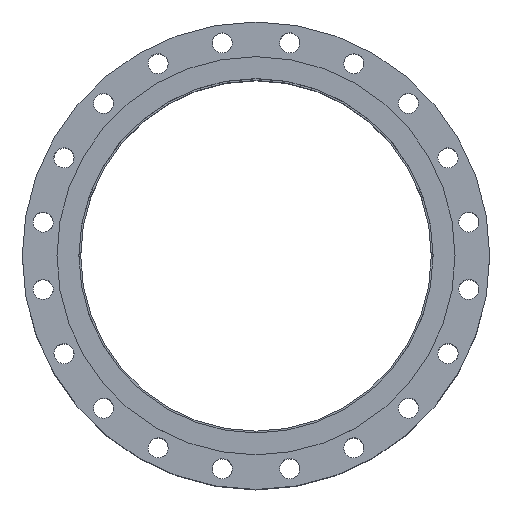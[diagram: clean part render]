
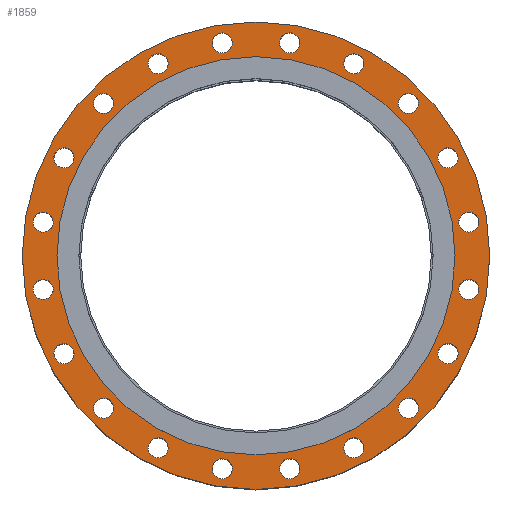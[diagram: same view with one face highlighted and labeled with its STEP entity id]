
A CAD part, top view. The second image highlights one B-rep face of the part: STEP entity #1859.
In plain terms, the highlighted planar face has unit normal (0, 0, 1).
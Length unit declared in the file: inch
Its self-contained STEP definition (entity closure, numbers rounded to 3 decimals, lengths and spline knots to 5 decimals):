
#96=FACE_BOUND('',#471,.T.);
#97=FACE_BOUND('',#472,.T.);
#98=FACE_BOUND('',#473,.T.);
#99=FACE_BOUND('',#474,.T.);
#100=FACE_BOUND('',#475,.T.);
#101=FACE_BOUND('',#476,.T.);
#102=FACE_BOUND('',#477,.T.);
#103=FACE_BOUND('',#478,.T.);
#104=FACE_BOUND('',#479,.T.);
#105=FACE_BOUND('',#480,.T.);
#106=FACE_BOUND('',#481,.T.);
#107=FACE_BOUND('',#482,.T.);
#108=FACE_BOUND('',#483,.T.);
#109=FACE_BOUND('',#484,.T.);
#110=FACE_BOUND('',#485,.T.);
#111=FACE_BOUND('',#486,.T.);
#112=FACE_BOUND('',#487,.T.);
#113=FACE_BOUND('',#488,.T.);
#114=FACE_BOUND('',#489,.T.);
#115=FACE_BOUND('',#490,.T.);
#116=FACE_BOUND('',#491,.T.);
#174=PLANE('',#2100);
#309=FACE_OUTER_BOUND('',#470,.T.);
#470=EDGE_LOOP('',(#1453));
#471=EDGE_LOOP('',(#1454));
#472=EDGE_LOOP('',(#1455));
#473=EDGE_LOOP('',(#1456));
#474=EDGE_LOOP('',(#1457));
#475=EDGE_LOOP('',(#1458));
#476=EDGE_LOOP('',(#1459));
#477=EDGE_LOOP('',(#1460));
#478=EDGE_LOOP('',(#1461));
#479=EDGE_LOOP('',(#1462));
#480=EDGE_LOOP('',(#1463));
#481=EDGE_LOOP('',(#1464));
#482=EDGE_LOOP('',(#1465));
#483=EDGE_LOOP('',(#1466));
#484=EDGE_LOOP('',(#1467));
#485=EDGE_LOOP('',(#1468));
#486=EDGE_LOOP('',(#1469));
#487=EDGE_LOOP('',(#1470));
#488=EDGE_LOOP('',(#1471));
#489=EDGE_LOOP('',(#1472));
#490=EDGE_LOOP('',(#1473));
#491=EDGE_LOOP('',(#1474));
#711=CIRCLE('',#2019,0.6875);
#713=CIRCLE('',#2022,0.6875);
#715=CIRCLE('',#2025,0.6875);
#717=CIRCLE('',#2028,0.6875);
#719=CIRCLE('',#2031,0.6875);
#721=CIRCLE('',#2034,0.6875);
#723=CIRCLE('',#2037,0.6875);
#725=CIRCLE('',#2040,0.6875);
#727=CIRCLE('',#2043,0.6875);
#729=CIRCLE('',#2046,0.6875);
#731=CIRCLE('',#2049,0.6875);
#733=CIRCLE('',#2052,0.6875);
#735=CIRCLE('',#2055,0.6875);
#737=CIRCLE('',#2058,0.6875);
#739=CIRCLE('',#2061,0.6875);
#741=CIRCLE('',#2064,0.6875);
#743=CIRCLE('',#2067,0.6875);
#745=CIRCLE('',#2070,0.6875);
#747=CIRCLE('',#2073,0.6875);
#749=CIRCLE('',#2076,0.6875);
#762=CIRCLE('',#2095,13.625);
#764=CIRCLE('',#2099,16.);
#923=VERTEX_POINT('',#3154);
#925=VERTEX_POINT('',#3160);
#927=VERTEX_POINT('',#3166);
#929=VERTEX_POINT('',#3172);
#931=VERTEX_POINT('',#3178);
#933=VERTEX_POINT('',#3184);
#935=VERTEX_POINT('',#3190);
#937=VERTEX_POINT('',#3196);
#939=VERTEX_POINT('',#3202);
#941=VERTEX_POINT('',#3208);
#943=VERTEX_POINT('',#3214);
#945=VERTEX_POINT('',#3220);
#947=VERTEX_POINT('',#3226);
#949=VERTEX_POINT('',#3232);
#951=VERTEX_POINT('',#3238);
#953=VERTEX_POINT('',#3244);
#955=VERTEX_POINT('',#3250);
#957=VERTEX_POINT('',#3256);
#959=VERTEX_POINT('',#3262);
#961=VERTEX_POINT('',#3268);
#972=VERTEX_POINT('',#3300);
#974=VERTEX_POINT('',#3307);
#1083=EDGE_CURVE('',#923,#923,#711,.T.);
#1086=EDGE_CURVE('',#925,#925,#713,.T.);
#1089=EDGE_CURVE('',#927,#927,#715,.T.);
#1092=EDGE_CURVE('',#929,#929,#717,.T.);
#1095=EDGE_CURVE('',#931,#931,#719,.T.);
#1098=EDGE_CURVE('',#933,#933,#721,.T.);
#1101=EDGE_CURVE('',#935,#935,#723,.T.);
#1104=EDGE_CURVE('',#937,#937,#725,.T.);
#1107=EDGE_CURVE('',#939,#939,#727,.T.);
#1110=EDGE_CURVE('',#941,#941,#729,.T.);
#1113=EDGE_CURVE('',#943,#943,#731,.T.);
#1116=EDGE_CURVE('',#945,#945,#733,.T.);
#1119=EDGE_CURVE('',#947,#947,#735,.T.);
#1122=EDGE_CURVE('',#949,#949,#737,.T.);
#1125=EDGE_CURVE('',#951,#951,#739,.T.);
#1128=EDGE_CURVE('',#953,#953,#741,.T.);
#1131=EDGE_CURVE('',#955,#955,#743,.T.);
#1134=EDGE_CURVE('',#957,#957,#745,.T.);
#1137=EDGE_CURVE('',#959,#959,#747,.T.);
#1140=EDGE_CURVE('',#961,#961,#749,.T.);
#1156=EDGE_CURVE('',#972,#972,#762,.T.);
#1158=EDGE_CURVE('',#974,#974,#764,.T.);
#1453=ORIENTED_EDGE('',*,*,#1158,.T.);
#1454=ORIENTED_EDGE('',*,*,#1083,.T.);
#1455=ORIENTED_EDGE('',*,*,#1086,.T.);
#1456=ORIENTED_EDGE('',*,*,#1089,.T.);
#1457=ORIENTED_EDGE('',*,*,#1092,.T.);
#1458=ORIENTED_EDGE('',*,*,#1095,.T.);
#1459=ORIENTED_EDGE('',*,*,#1098,.T.);
#1460=ORIENTED_EDGE('',*,*,#1101,.T.);
#1461=ORIENTED_EDGE('',*,*,#1104,.T.);
#1462=ORIENTED_EDGE('',*,*,#1107,.T.);
#1463=ORIENTED_EDGE('',*,*,#1110,.T.);
#1464=ORIENTED_EDGE('',*,*,#1113,.T.);
#1465=ORIENTED_EDGE('',*,*,#1116,.T.);
#1466=ORIENTED_EDGE('',*,*,#1119,.T.);
#1467=ORIENTED_EDGE('',*,*,#1122,.T.);
#1468=ORIENTED_EDGE('',*,*,#1125,.T.);
#1469=ORIENTED_EDGE('',*,*,#1128,.T.);
#1470=ORIENTED_EDGE('',*,*,#1131,.T.);
#1471=ORIENTED_EDGE('',*,*,#1134,.T.);
#1472=ORIENTED_EDGE('',*,*,#1137,.T.);
#1473=ORIENTED_EDGE('',*,*,#1140,.T.);
#1474=ORIENTED_EDGE('',*,*,#1156,.T.);
#1859=ADVANCED_FACE('',(#309,#96,#97,#98,#99,#100,#101,#102,#103,#104,#105,
#106,#107,#108,#109,#110,#111,#112,#113,#114,#115,#116),#174,.T.);
#2019=AXIS2_PLACEMENT_3D('',#3155,#2391,#2392);
#2022=AXIS2_PLACEMENT_3D('',#3161,#2398,#2399);
#2025=AXIS2_PLACEMENT_3D('',#3167,#2405,#2406);
#2028=AXIS2_PLACEMENT_3D('',#3173,#2412,#2413);
#2031=AXIS2_PLACEMENT_3D('',#3179,#2419,#2420);
#2034=AXIS2_PLACEMENT_3D('',#3185,#2426,#2427);
#2037=AXIS2_PLACEMENT_3D('',#3191,#2433,#2434);
#2040=AXIS2_PLACEMENT_3D('',#3197,#2440,#2441);
#2043=AXIS2_PLACEMENT_3D('',#3203,#2447,#2448);
#2046=AXIS2_PLACEMENT_3D('',#3209,#2454,#2455);
#2049=AXIS2_PLACEMENT_3D('',#3215,#2461,#2462);
#2052=AXIS2_PLACEMENT_3D('',#3221,#2468,#2469);
#2055=AXIS2_PLACEMENT_3D('',#3227,#2475,#2476);
#2058=AXIS2_PLACEMENT_3D('',#3233,#2482,#2483);
#2061=AXIS2_PLACEMENT_3D('',#3239,#2489,#2490);
#2064=AXIS2_PLACEMENT_3D('',#3245,#2496,#2497);
#2067=AXIS2_PLACEMENT_3D('',#3251,#2503,#2504);
#2070=AXIS2_PLACEMENT_3D('',#3257,#2510,#2511);
#2073=AXIS2_PLACEMENT_3D('',#3263,#2517,#2518);
#2076=AXIS2_PLACEMENT_3D('',#3269,#2524,#2525);
#2095=AXIS2_PLACEMENT_3D('',#3302,#2565,#2566);
#2099=AXIS2_PLACEMENT_3D('',#3308,#2573,#2574);
#2100=AXIS2_PLACEMENT_3D('',#3310,#2576,#2577);
#2391=DIRECTION('center_axis',(0.,0.,-1.));
#2392=DIRECTION('ref_axis',(0.951,-0.309,0.));
#2398=DIRECTION('center_axis',(0.,0.,-1.));
#2399=DIRECTION('ref_axis',(0.809,-0.588,0.));
#2405=DIRECTION('center_axis',(0.,0.,-1.));
#2406=DIRECTION('ref_axis',(0.588,-0.809,0.));
#2412=DIRECTION('center_axis',(0.,0.,-1.));
#2413=DIRECTION('ref_axis',(0.309,-0.951,0.));
#2419=DIRECTION('center_axis',(0.,0.,-1.));
#2420=DIRECTION('ref_axis',(0.,-1.,0.));
#2426=DIRECTION('center_axis',(0.,0.,-1.));
#2427=DIRECTION('ref_axis',(-0.309,-0.951,0.));
#2433=DIRECTION('center_axis',(0.,0.,-1.));
#2434=DIRECTION('ref_axis',(-0.588,-0.809,0.));
#2440=DIRECTION('center_axis',(0.,0.,-1.));
#2441=DIRECTION('ref_axis',(-0.809,-0.588,0.));
#2447=DIRECTION('center_axis',(0.,0.,-1.));
#2448=DIRECTION('ref_axis',(-0.951,-0.309,0.));
#2454=DIRECTION('center_axis',(0.,0.,-1.));
#2455=DIRECTION('ref_axis',(-1.,0.,0.));
#2461=DIRECTION('center_axis',(0.,0.,-1.));
#2462=DIRECTION('ref_axis',(-0.951,0.309,0.));
#2468=DIRECTION('center_axis',(0.,0.,-1.));
#2469=DIRECTION('ref_axis',(-0.809,0.588,0.));
#2475=DIRECTION('center_axis',(0.,0.,-1.));
#2476=DIRECTION('ref_axis',(-0.588,0.809,0.));
#2482=DIRECTION('center_axis',(0.,0.,-1.));
#2483=DIRECTION('ref_axis',(-0.309,0.951,0.));
#2489=DIRECTION('center_axis',(0.,0.,-1.));
#2490=DIRECTION('ref_axis',(0.,1.,0.));
#2496=DIRECTION('center_axis',(0.,0.,-1.));
#2497=DIRECTION('ref_axis',(0.309,0.951,0.));
#2503=DIRECTION('center_axis',(0.,0.,-1.));
#2504=DIRECTION('ref_axis',(0.588,0.809,0.));
#2510=DIRECTION('center_axis',(0.,0.,-1.));
#2511=DIRECTION('ref_axis',(0.809,0.588,0.));
#2517=DIRECTION('center_axis',(0.,0.,-1.));
#2518=DIRECTION('ref_axis',(0.951,0.309,0.));
#2524=DIRECTION('center_axis',(0.,0.,-1.));
#2525=DIRECTION('ref_axis',(1.,0.,0.));
#2565=DIRECTION('center_axis',(0.,0.,-1.));
#2566=DIRECTION('ref_axis',(0.,1.,0.));
#2573=DIRECTION('center_axis',(0.,0.,1.));
#2574=DIRECTION('ref_axis',(1.,0.,0.));
#2576=DIRECTION('center_axis',(0.,0.,1.));
#2577=DIRECTION('ref_axis',(1.,0.,0.));
#3154=CARTESIAN_POINT('',(1.65356,14.78085,0.905));
#3155=CARTESIAN_POINT('Origin',(2.30741,14.5684,0.905));
#3160=CARTESIAN_POINT('',(6.14016,13.54645,0.905));
#3161=CARTESIAN_POINT('Origin',(6.69636,13.14235,0.905));
#3166=CARTESIAN_POINT('',(10.02572,10.98602,0.905));
#3167=CARTESIAN_POINT('Origin',(10.42983,10.42983,0.905));
#3172=CARTESIAN_POINT('',(12.9299,7.35021,0.905));
#3173=CARTESIAN_POINT('Origin',(13.14235,6.69636,0.905));
#3178=CARTESIAN_POINT('',(14.5684,2.99491,0.905));
#3179=CARTESIAN_POINT('Origin',(14.5684,2.30741,0.905));
#3184=CARTESIAN_POINT('',(14.78085,-1.65356,0.905));
#3185=CARTESIAN_POINT('Origin',(14.5684,-2.30741,0.905));
#3190=CARTESIAN_POINT('',(13.54645,-6.14016,0.905));
#3191=CARTESIAN_POINT('Origin',(13.14235,-6.69636,0.905));
#3196=CARTESIAN_POINT('',(10.98602,-10.02572,0.905));
#3197=CARTESIAN_POINT('Origin',(10.42983,-10.42983,0.905));
#3202=CARTESIAN_POINT('',(7.35021,-12.9299,0.905));
#3203=CARTESIAN_POINT('Origin',(6.69636,-13.14235,0.905));
#3208=CARTESIAN_POINT('',(2.99491,-14.5684,0.905));
#3209=CARTESIAN_POINT('Origin',(2.30741,-14.5684,0.905));
#3214=CARTESIAN_POINT('',(-1.65356,-14.78085,0.905));
#3215=CARTESIAN_POINT('Origin',(-2.30741,-14.5684,0.905));
#3220=CARTESIAN_POINT('',(-6.14016,-13.54645,0.905));
#3221=CARTESIAN_POINT('Origin',(-6.69636,-13.14235,0.905));
#3226=CARTESIAN_POINT('',(-10.02572,-10.98602,0.905));
#3227=CARTESIAN_POINT('Origin',(-10.42983,-10.42983,0.905));
#3232=CARTESIAN_POINT('',(-12.9299,-7.35021,0.905));
#3233=CARTESIAN_POINT('Origin',(-13.14235,-6.69636,0.905));
#3238=CARTESIAN_POINT('',(-14.5684,-2.99491,0.905));
#3239=CARTESIAN_POINT('Origin',(-14.5684,-2.30741,0.905));
#3244=CARTESIAN_POINT('',(-14.78085,1.65356,0.905));
#3245=CARTESIAN_POINT('Origin',(-14.5684,2.30741,0.905));
#3250=CARTESIAN_POINT('',(-13.54645,6.14016,0.905));
#3251=CARTESIAN_POINT('Origin',(-13.14235,6.69636,0.905));
#3256=CARTESIAN_POINT('',(-10.98602,10.02572,0.905));
#3257=CARTESIAN_POINT('Origin',(-10.42983,10.42983,0.905));
#3262=CARTESIAN_POINT('',(-7.35021,12.9299,0.905));
#3263=CARTESIAN_POINT('Origin',(-6.69636,13.14235,0.905));
#3268=CARTESIAN_POINT('',(-2.99491,14.5684,0.905));
#3269=CARTESIAN_POINT('Origin',(-2.30741,14.5684,0.905));
#3300=CARTESIAN_POINT('',(0.,-13.625,0.905));
#3302=CARTESIAN_POINT('Origin',(0.,0.,0.905));
#3307=CARTESIAN_POINT('',(0.,-16.,0.905));
#3308=CARTESIAN_POINT('Origin',(0.,0.,0.905));
#3310=CARTESIAN_POINT('Origin',(0.,12.125,0.905));
